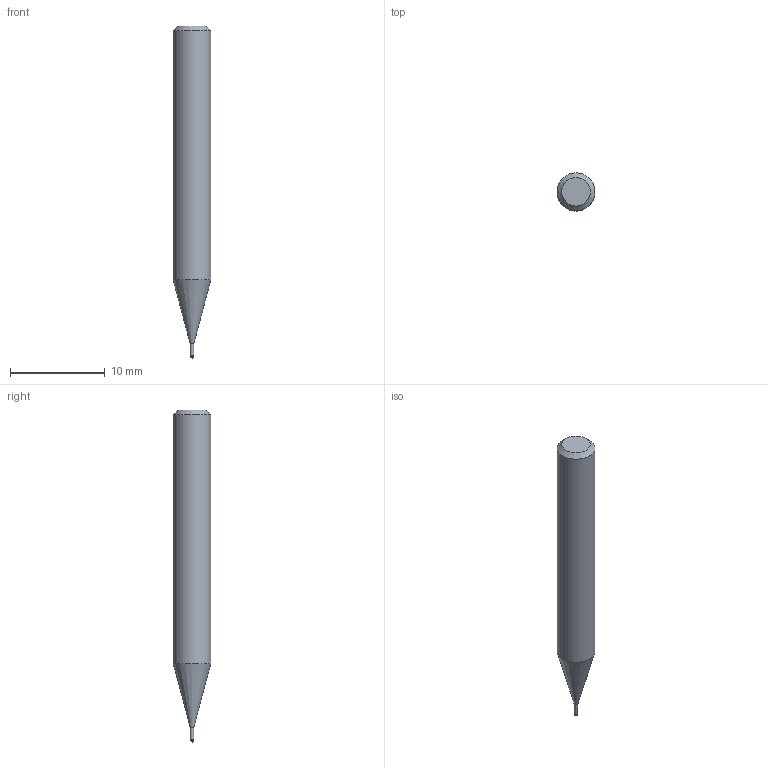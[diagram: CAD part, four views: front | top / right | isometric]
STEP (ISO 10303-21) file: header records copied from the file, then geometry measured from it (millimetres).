
FILE_DESCRIPTION((''),'2;1');
FILE_NAME('C:\Users\nsx150\AppData\Local\Temp\Mastercam 2021\QT8KEW0Y7J\TEMP.step','2021-04-23T11:20:33',(''),(''),'STEP Write','Mastercam 2021 ... CNC Software, Inc.','');
FILE_SCHEMA(('AUTOMOTIVE_DESIGN'));
Length unit declared in the file: millimetre
Products named in the file (1): None
Bounding box: 4 x 4 x 35 mm (x, y, z)
Volume: 365.8 mm3; surface area: 394.6 mm2
Topology: 2 solids, 2 shells, 9 faces, 14 edges, 8 vertices
Faces by surface type: plane 3, cylinder 3, cone 2, sphere 1
Full cylindrical faces by diameter (mm): 0.37 x1, 0.4 x1, 4 x1
Entity records: 211 total; most frequent: DIRECTION 36, CARTESIAN_POINT 25, AXIS2_PLACEMENT_3D 18, ORIENTED_EDGE 14, EDGE_LOOP 14, STYLED_ITEM 12, ADVANCED_FACE 9, FACE_BOUND 8
